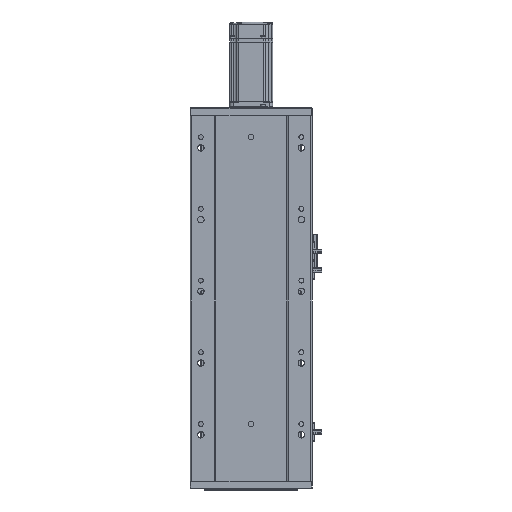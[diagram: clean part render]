
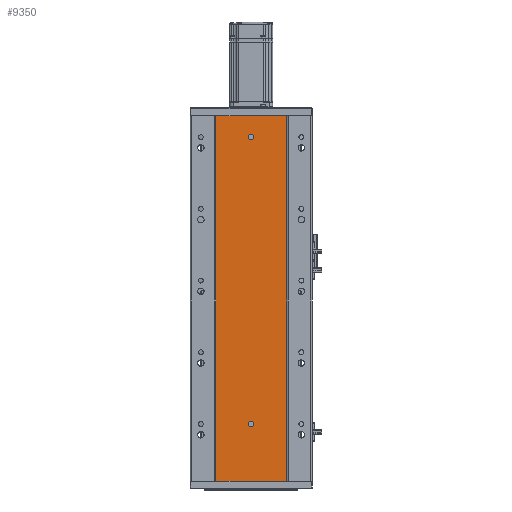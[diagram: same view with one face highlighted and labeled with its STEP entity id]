
A CAD part, front view. The second image highlights one B-rep face of the part: STEP entity #9350.
In plain terms, the highlighted planar face has unit normal (0, -1, 0).
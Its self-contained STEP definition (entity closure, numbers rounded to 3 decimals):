
#3679 = AXIS2_PLACEMENT_3D ( 'NONE', #30294, #30313, #30250 ) ;
#3731 = AXIS2_PLACEMENT_3D ( 'NONE', #29741, #29744, #29753 ) ;
#4323 = AXIS2_PLACEMENT_3D ( 'NONE', #10015, #10024, #9961 ) ;
#4405 = AXIS2_PLACEMENT_3D ( 'NONE', #10188, #10197, #10337 ) ;
#6782 = CIRCLE ( 'NONE', #4323, 4. ) ;
#6803 = LINE ( 'NONE', #7172, #6814 ) ;
#6814 = VECTOR ( 'NONE', #7176, 1000. ) ;
#6847 = CIRCLE ( 'NONE', #4405, 4. ) ;
#6883 = LINE ( 'NONE', #10193, #6898 ) ;
#6898 = VECTOR ( 'NONE', #10254, 1000. ) ;
#7172 = CARTESIAN_POINT ( 'NONE',  ( 0., 79.476, 0. ) ) ;
#7176 = DIRECTION ( 'NONE',  ( 1., 0., 0. ) ) ;
#8370 = VERTEX_POINT ( 'NONE', #45906 ) ;
#8387 = VERTEX_POINT ( 'NONE', #45935 ) ;
#8463 = VERTEX_POINT ( 'NONE', #45987 ) ;
#8474 = VERTEX_POINT ( 'NONE', #45981 ) ;
#9350 = ADVANCED_FACE ( 'NONE', ( #46724, #46732, #46733 ), #54465, .F. ) ;
#9913 = CARTESIAN_POINT ( 'NONE',  ( 86.97, 79.476, 510. ) ) ;
#9926 = CARTESIAN_POINT ( 'NONE',  ( 86.97, 79.476, 0. ) ) ;
#9961 = DIRECTION ( 'NONE',  ( 0., 0., -1. ) ) ;
#10007 = CARTESIAN_POINT ( 'NONE',  ( 86.97, 79.476, 340. ) ) ;
#10009 = CARTESIAN_POINT ( 'NONE',  ( 86.97, 79.476, 170. ) ) ;
#10015 = CARTESIAN_POINT ( 'NONE',  ( 136.47, 79.476, 80. ) ) ;
#10024 = DIRECTION ( 'NONE',  ( 0., -1., 0. ) ) ;
#10188 = CARTESIAN_POINT ( 'NONE',  ( 136.47, 79.476, 480. ) ) ;
#10193 = CARTESIAN_POINT ( 'NONE',  ( 0., 79.476, 510. ) ) ;
#10197 = DIRECTION ( 'NONE',  ( 0., -1., 0. ) ) ;
#10210 = CARTESIAN_POINT ( 'NONE',  ( 185.97, 79.476, 510. ) ) ;
#10216 = CARTESIAN_POINT ( 'NONE',  ( 185.97, 79.476, 340. ) ) ;
#10222 = CARTESIAN_POINT ( 'NONE',  ( 185.97, 79.476, 170. ) ) ;
#10252 = CARTESIAN_POINT ( 'NONE',  ( 185.97, 79.476, 0. ) ) ;
#10254 = DIRECTION ( 'NONE',  ( 1., 0., 0. ) ) ;
#10337 = DIRECTION ( 'NONE',  ( 0., 0., -1. ) ) ;
#13523 = AXIS2_PLACEMENT_3D ( 'NONE', #54444, #54457, #54437 ) ;
#15216 = ORIENTED_EDGE ( 'NONE', *, *, #39125, .F. ) ;
#15224 = ORIENTED_EDGE ( 'NONE', *, *, #39095, .F. ) ;
#15231 = ORIENTED_EDGE ( 'NONE', *, *, #38156, .F. ) ;
#15237 = ORIENTED_EDGE ( 'NONE', *, *, #38235, .F. ) ;
#15238 = ORIENTED_EDGE ( 'NONE', *, *, #39068, .T. ) ;
#15247 = ORIENTED_EDGE ( 'NONE', *, *, #39130, .F. ) ;
#15267 = ORIENTED_EDGE ( 'NONE', *, *, #39088, .T. ) ;
#15303 = ORIENTED_EDGE ( 'NONE', *, *, #39119, .F. ) ;
#23996 = CARTESIAN_POINT ( 'NONE',  ( 185.97, 79.476, 510. ) ) ;
#24008 = CARTESIAN_POINT ( 'NONE',  ( 86.97, 79.476, 510. ) ) ;
#24117 = CARTESIAN_POINT ( 'NONE',  ( 86.97, 79.476, 0. ) ) ;
#24268 = CARTESIAN_POINT ( 'NONE',  ( 185.97, 79.476, 0. ) ) ;
#27286 = CIRCLE ( 'NONE', #3731, 4. ) ;
#27464 = CIRCLE ( 'NONE', #3679, 4. ) ;
#29741 = CARTESIAN_POINT ( 'NONE',  ( 136.47, 79.476, 80. ) ) ;
#29744 = DIRECTION ( 'NONE',  ( 0., -1., 0. ) ) ;
#29753 = DIRECTION ( 'NONE',  ( 0., 0., -1. ) ) ;
#30250 = DIRECTION ( 'NONE',  ( 0., 0., -1. ) ) ;
#30294 = CARTESIAN_POINT ( 'NONE',  ( 136.47, 79.476, 480. ) ) ;
#30313 = DIRECTION ( 'NONE',  ( 0., -1., 0. ) ) ;
#35557 = B_SPLINE_CURVE_WITH_KNOTS ( 'NONE', 3,
 ( #9913, #10007, #10009, #9926 ),
 .UNSPECIFIED., .F., .F.,
 ( 4, 4 ),
 ( 0., 1. ),
 .UNSPECIFIED. ) ;
#35567 = B_SPLINE_CURVE_WITH_KNOTS ( 'NONE', 3,
 ( #10210, #10216, #10222, #10252 ),
 .UNSPECIFIED., .F., .F.,
 ( 4, 4 ),
 ( 0., 1. ),
 .UNSPECIFIED. ) ;
#38156 = EDGE_CURVE ( 'NONE', #8370, #8387, #27286, .T. ) ;
#38235 = EDGE_CURVE ( 'NONE', #8463, #8474, #27464, .T. ) ;
#39068 = EDGE_CURVE ( 'NONE', #43081, #43148, #6803, .T. ) ;
#39088 = EDGE_CURVE ( 'NONE', #43045, #43081, #35557, .T. ) ;
#39095 = EDGE_CURVE ( 'NONE', #8387, #8370, #6782, .T. ) ;
#39119 = EDGE_CURVE ( 'NONE', #43057, #43148, #35567, .T. ) ;
#39125 = EDGE_CURVE ( 'NONE', #43045, #43057, #6883, .T. ) ;
#39130 = EDGE_CURVE ( 'NONE', #8474, #8463, #6847, .T. ) ;
#43045 = VERTEX_POINT ( 'NONE', #24008 ) ;
#43057 = VERTEX_POINT ( 'NONE', #23996 ) ;
#43081 = VERTEX_POINT ( 'NONE', #24117 ) ;
#43148 = VERTEX_POINT ( 'NONE', #24268 ) ;
#44889 = EDGE_LOOP ( 'NONE', ( #15247, #15237 ) ) ;
#44894 = EDGE_LOOP ( 'NONE', ( #15224, #15231 ) ) ;
#44909 = EDGE_LOOP ( 'NONE', ( #15238, #15303, #15216, #15267 ) ) ;
#45906 = CARTESIAN_POINT ( 'NONE',  ( 136.47, 79.476, 84. ) ) ;
#45935 = CARTESIAN_POINT ( 'NONE',  ( 136.47, 79.476, 76. ) ) ;
#45981 = CARTESIAN_POINT ( 'NONE',  ( 136.47, 79.476, 476. ) ) ;
#45987 = CARTESIAN_POINT ( 'NONE',  ( 136.47, 79.476, 484. ) ) ;
#46724 = FACE_BOUND ( 'NONE', #44889, .T. ) ;
#46732 = FACE_BOUND ( 'NONE', #44894, .T. ) ;
#46733 = FACE_OUTER_BOUND ( 'NONE', #44909, .T. ) ;
#54437 = DIRECTION ( 'NONE',  ( 0., 0., 1. ) ) ;
#54444 = CARTESIAN_POINT ( 'NONE',  ( 0., 79.476, 510. ) ) ;
#54457 = DIRECTION ( 'NONE',  ( 0., 1., 0. ) ) ;
#54465 = PLANE ( 'NONE',  #13523 ) ;
